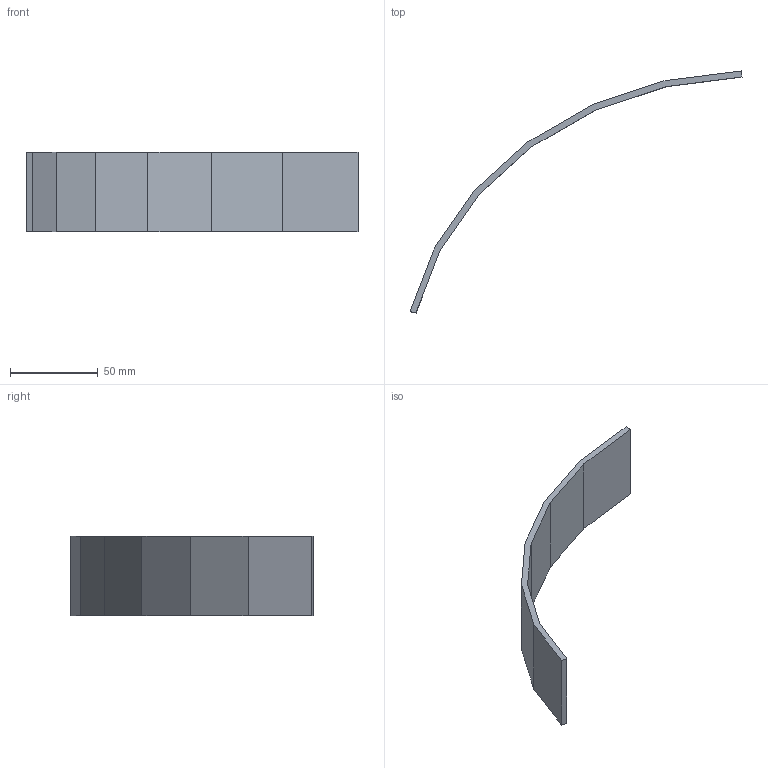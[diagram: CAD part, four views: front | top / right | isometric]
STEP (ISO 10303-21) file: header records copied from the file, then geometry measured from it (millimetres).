
FILE_DESCRIPTION(('Open CASCADE Model'),'2;1');
FILE_NAME('Open CASCADE Shape Model','2026-09-19T23:46:39',('Author'),( 'Open CASCADE'),'Open CASCADE STEP processor 7.9','Open CASCADE 7.9' ,'Unknown');
FILE_SCHEMA(('AUTOMOTIVE_DESIGN { 1 0 10303 214 1 1 1 1 }'));
Length unit declared in the file: millimetre
Products named in the file (1): Open CASCADE STEP translator 7.9 33
Bounding box: 188.77 x 137.65 x 45 mm (x, y, z)
Volume: 38641.8 mm3; surface area: 24283.5 mm2
Topology: 1 solids, 1 shells, 16 faces, 42 edges, 28 vertices
Faces by surface type: plane 16
Entity records: 1000 total; most frequent: CARTESIAN_POINT 213, DIRECTION 118, ORIENTED_EDGE 84, LINE 84, VECTOR 84, PCURVE 84, DEFINITIONAL_REPRESENTATION 84, EDGE_CURVE 42
